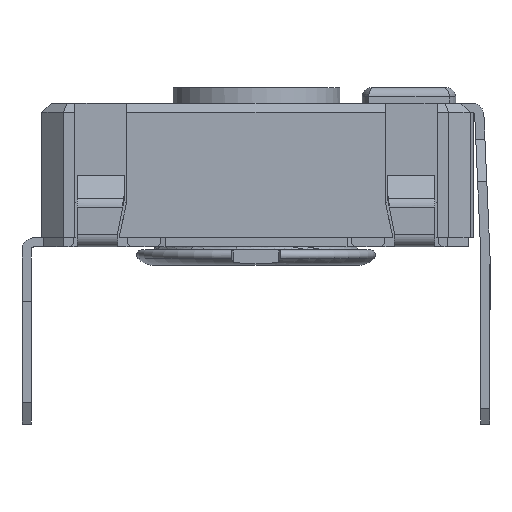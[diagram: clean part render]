
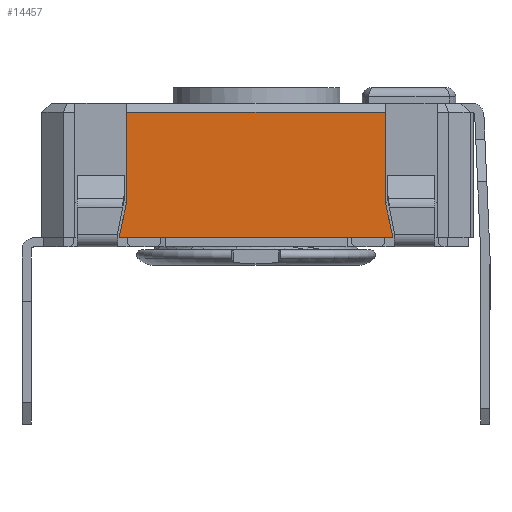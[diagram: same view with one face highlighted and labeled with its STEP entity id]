
A CAD part, left-side view. The second image highlights one B-rep face of the part: STEP entity #14457.
In plain terms, the highlighted planar face has unit normal (-1, 0, 0).
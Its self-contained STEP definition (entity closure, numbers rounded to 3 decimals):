
#1299=FACE_OUTER_BOUND('',#2046,.T.);
#2046=EDGE_LOOP('',(#12266,#12267,#12268,#12269,#12270,#12271));
#2945=LINE('',#21822,#4523);
#3244=LINE('',#22768,#4822);
#3248=LINE('',#22775,#4826);
#3605=LINE('',#23540,#5183);
#3610=LINE('',#23548,#5188);
#3611=LINE('',#23550,#5189);
#4523=VECTOR('',#17580,10.);
#4822=VECTOR('',#18309,10.);
#4826=VECTOR('',#18315,10.);
#5183=VECTOR('',#19060,10.);
#5188=VECTOR('',#19067,10.);
#5189=VECTOR('',#19070,10.);
#6021=VERTEX_POINT('',#21819);
#6022=VERTEX_POINT('',#21821);
#6313=VERTEX_POINT('',#22765);
#6314=VERTEX_POINT('',#22767);
#6316=VERTEX_POINT('',#22773);
#6516=VERTEX_POINT('',#23546);
#7658=EDGE_CURVE('',#6021,#6022,#2945,.T.);
#8068=EDGE_CURVE('',#6313,#6314,#3244,.T.);
#8072=EDGE_CURVE('',#6313,#6316,#3248,.T.);
#8453=EDGE_CURVE('',#6022,#6316,#3605,.T.);
#8458=EDGE_CURVE('',#6516,#6021,#3610,.T.);
#8459=EDGE_CURVE('',#6516,#6314,#3611,.T.);
#12266=ORIENTED_EDGE('',*,*,#8068,.F.);
#12267=ORIENTED_EDGE('',*,*,#8072,.T.);
#12268=ORIENTED_EDGE('',*,*,#8453,.F.);
#12269=ORIENTED_EDGE('',*,*,#7658,.F.);
#12270=ORIENTED_EDGE('',*,*,#8458,.F.);
#12271=ORIENTED_EDGE('',*,*,#8459,.T.);
#13047=PLANE('',#15530);
#14457=ADVANCED_FACE('',(#1299),#13047,.T.);
#15530=AXIS2_PLACEMENT_3D('',#23584,#19116,#19117);
#17580=DIRECTION('',(0.,1.,0.));
#18309=DIRECTION('',(0.,-1.,0.));
#18315=DIRECTION('',(0.,0.,-1.));
#19060=DIRECTION('',(0.,-0.208,0.978));
#19067=DIRECTION('',(0.,-0.208,-0.978));
#19070=DIRECTION('',(0.,0.,1.));
#19116=DIRECTION('center_axis',(-1.,0.,0.));
#19117=DIRECTION('ref_axis',(0.,0.,1.));
#21819=CARTESIAN_POINT('',(-7.,-4.425,-2.225));
#21821=CARTESIAN_POINT('',(-7.,4.525,-2.225));
#21822=CARTESIAN_POINT('',(-7.,-6.25,-2.225));
#22765=CARTESIAN_POINT('',(-7.,4.275,1.875));
#22767=CARTESIAN_POINT('',(-7.,-4.175,1.875));
#22768=CARTESIAN_POINT('',(-7.,-3.1,1.875));
#22773=CARTESIAN_POINT('',(-7.,4.275,-1.049));
#22775=CARTESIAN_POINT('',(-7.,4.275,-2.225));
#23540=CARTESIAN_POINT('',(-7.,4.525,-2.225));
#23546=CARTESIAN_POINT('',(-7.,-4.175,-1.049));
#23548=CARTESIAN_POINT('',(-7.,-4.175,-1.049));
#23550=CARTESIAN_POINT('',(-7.,-4.175,-2.225));
#23584=CARTESIAN_POINT('Origin',(-7.,-6.25,-2.225));
